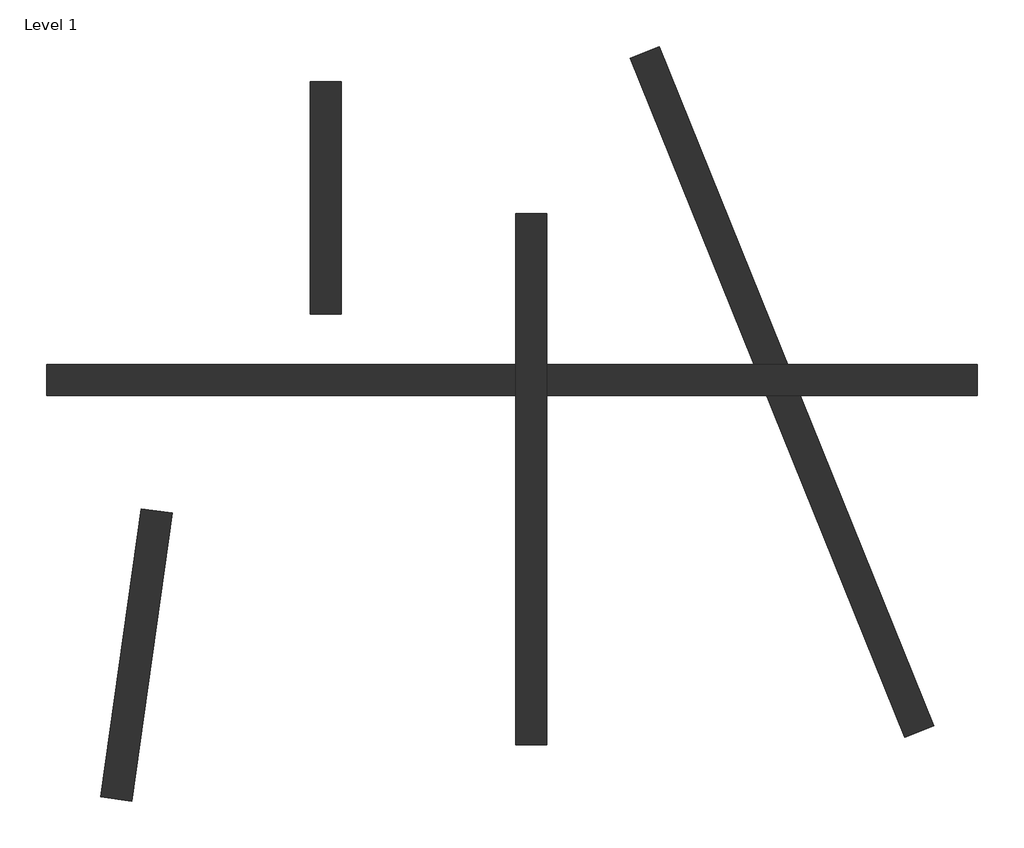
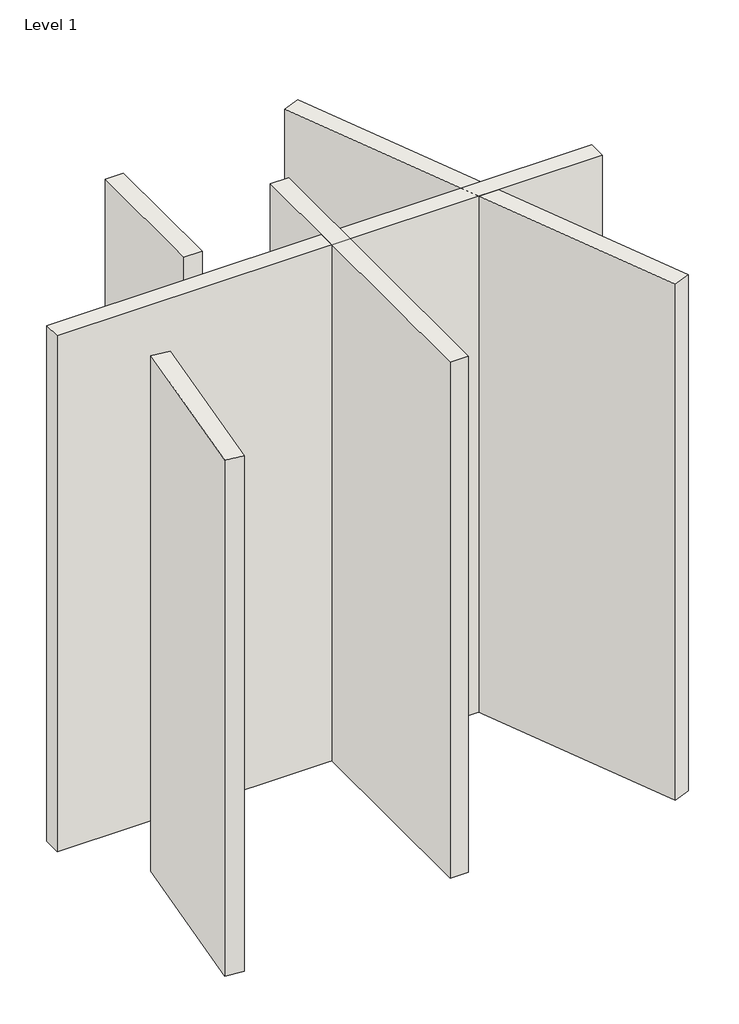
# One storey: 5 walls.
"""IFC4 building model written with IfcOpenShell, lengths in millimetres."""

from ifc_helpers import new_model, si_unit, origin, origin_with_axes, place, context, project, spatial, polyline, outline, extrude, element, save

model = new_model("IFC4")

# Units and contexts
model_context = context("Model", 3, world=origin())
ifc_project = project(units=[si_unit("LENGTHUNIT", "METRE", prefix="MILLI")], contexts=[model_context])

# Site, building, storey
site = spatial("IfcSite", under=ifc_project)
building = spatial("IfcBuilding", under=site)
storey = spatial("IfcBuildingStorey", under=building, Name="Level 1", Elevation=0.0)

# Walls
placement = place(None, origin())
element("IfcWall", 1, ObjectType="Generic - 8\"", at=placement, inside=storey, context=model_context, shape_type="SweptSolid", body=[
    extrude(outline(polyline([(3784.3397098, -741.8838621), (-2311.6602902, -741.8838621), (-2311.6602902, -538.6838621), (3784.3397098, -538.6838621), (3784.3397098, -741.8838621)])), origin_with_axes(), (0.0, 0.0, 1.0), 6096.0),
])
element("IfcWall", 2, ObjectType="Generic - 8\"", at=placement, inside=storey, context=model_context, shape_type="SweptSolid", body=[
    extrude(outline(polyline([(-584.4602902, -208.4838621), (-584.4602902, 1315.5161379), (-381.2602902, 1315.5161379), (-381.2602902, -208.4838621), (-584.4602902, -208.4838621)])), origin_with_axes(), (0.0, 0.0, 1.0), 6096.0),
])
element("IfcWall", 3, ObjectType="Generic - 8\"", at=placement, inside=storey, context=model_context, shape_type="SweptSolid", body=[
    extrude(outline(polyline([(-1955.0715259, -3370.5225949), (-1689.9467686, -1484.061924), (-1488.724297, -1512.3418981), (-1753.8490544, -3398.8025691), (-1955.0715259, -3370.5225949)])), origin_with_axes(), (0.0, 0.0, 1.0), 6096.0),
])
element("IfcWall", 4, ObjectType="Generic - 8\"", at=placement, inside=storey, context=model_context, shape_type="SweptSolid", body=[
    extrude(outline(polyline([(3309.1378302, -2982.1054617), (1510.8014179, 1468.9333505), (1699.2051771, 1545.0534103), (3497.5415895, -2905.9854019), (3309.1378302, -2982.1054617)])), origin_with_axes(), (0.0, 0.0, 1.0), 6096.0),
])
element("IfcWall", 5, ObjectType="Generic - 8\"", at=placement, inside=storey, context=model_context, shape_type="SweptSolid", body=[
    extrude(outline(polyline([(761.7397098, -3030.4352604), (761.7397098, 449.3647396), (964.9397098, 449.3647396), (964.9397098, -3030.4352604), (761.7397098, -3030.4352604)])), origin_with_axes(), (0.0, 0.0, 1.0), 6096.0),
])

save(model, "model.ifc")
